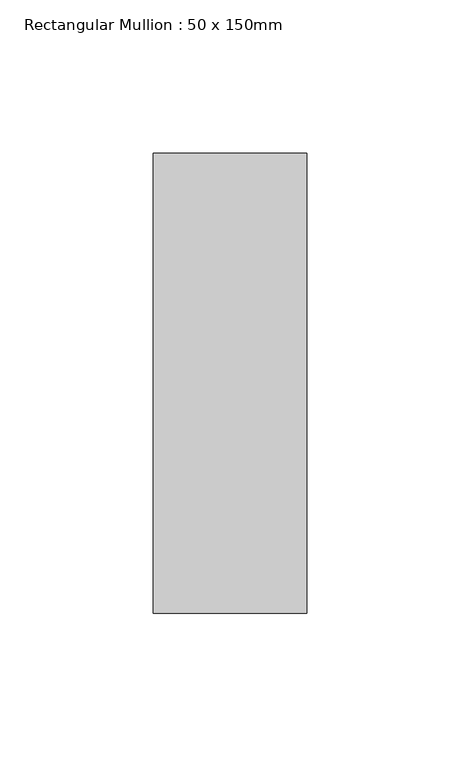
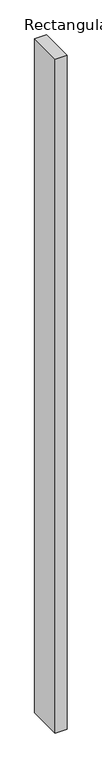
"""IFC4 building model written with IfcOpenShell, lengths in millimetres: member geometry, Rectangular Mullion : 50 x 150mm."""

from ifc_helpers import new_model, si_unit, frame, origin, place, context, project, spatial, polyline, outline, extrude, source, transform, mapped, element, save


def rectangular_mullion_50_x_150mm_60738c79(model_context):
    return source(origin(), model_context, "Body", "SweptSolid", [
        extrude(outline(polyline([(0.0, 75.0), (0.0, -75.0), (-50.0, -75.0), (-50.0, 75.0), (0.0, 75.0)])), frame((0.0, 0.0, -3015.4395036), z_axis=(0.0, 0.0, 1.0), x_axis=(1.0, 0.0, 0.0)), (0.0, 0.0, 1.0), 3015.4395036),
    ])


if __name__ == "__main__":
    model = new_model("IFC4")
    model_context = context("Model", 3, world=origin())
    ifc_project = project(units=[si_unit("LENGTHUNIT", "METRE", prefix="MILLI")], contexts=[model_context])
    site = spatial("IfcSite", under=ifc_project)
    building = spatial("IfcBuilding", under=site)
    placement = place(None, origin())
    rectangular_mullion_50_x_150mm_shape = rectangular_mullion_50_x_150mm_60738c79(model_context)
    element("IfcMember", 1, ObjectType="Rectangular Mullion : 50 x 150mm", at=placement, inside=building, context=model_context, shape_type="MappedRepresentation", body=[
        mapped(rectangular_mullion_50_x_150mm_shape, transform((0.0, 0.0, 0.0), x_axis=(1.0, 0.0, 0.0), y_axis=(0.0, 1.0, 0.0), z_axis=(0.0, 0.0, 1.0))),
    ])
    save(model, "model.ifc")
